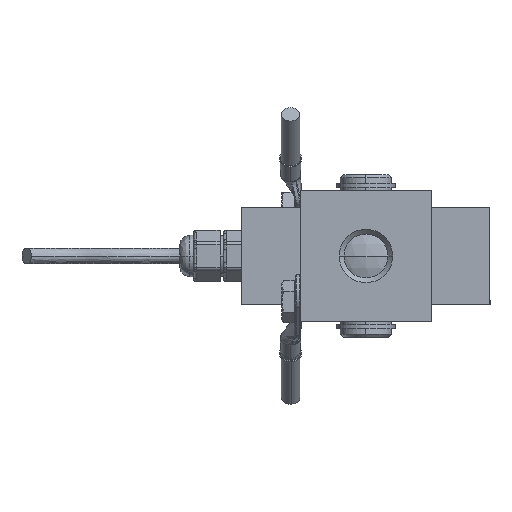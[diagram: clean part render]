
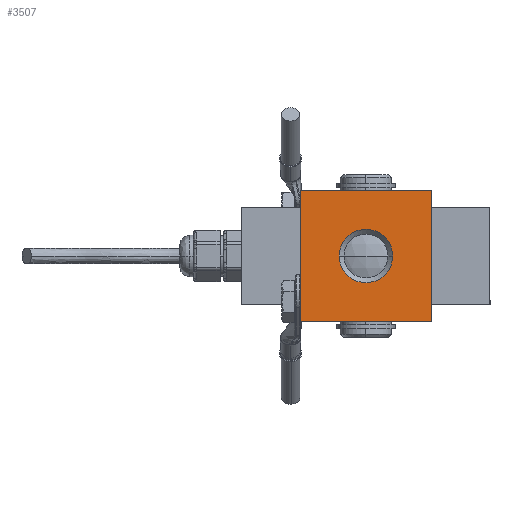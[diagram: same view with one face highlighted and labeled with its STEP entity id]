
A CAD part, front view. The second image highlights one B-rep face of the part: STEP entity #3507.
In plain terms, the highlighted planar face has unit normal (0, -1, 0).
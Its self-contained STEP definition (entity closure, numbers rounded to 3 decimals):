
#200 = CARTESIAN_POINT ( 'NONE',  ( 0., 0., 0. ) ) ;
#552 = FACE_BOUND ( 'NONE', #6560, .T. ) ;
#1264 = AXIS2_PLACEMENT_3D ( 'NONE', #4534, #17635, #6423 ) ;
#1455 = VERTEX_POINT ( 'NONE', #11928 ) ;
#1624 = EDGE_CURVE ( 'NONE', #4209, #1455, #12060, .T. ) ;
#1731 = FACE_OUTER_BOUND ( 'NONE', #13094, .T. ) ;
#2017 = ORIENTED_EDGE ( 'NONE', *, *, #5157, .F. ) ;
#2089 = DIRECTION ( 'NONE',  ( 1., 0., 0. ) ) ;
#3507 = ADVANCED_FACE ( 'NONE', ( #552, #1731 ), #8647, .T. ) ;
#3742 = VECTOR ( 'NONE', #23989, 1000. ) ;
#4209 = VERTEX_POINT ( 'NONE', #11277 ) ;
#4534 = CARTESIAN_POINT ( 'NONE',  ( 20., 0., -20. ) ) ;
#4665 = CARTESIAN_POINT ( 'NONE',  ( 40., 0., 0. ) ) ;
#4849 = VERTEX_POINT ( 'NONE', #12889 ) ;
#4935 = DIRECTION ( 'NONE',  ( 0., -1., 0. ) ) ;
#5157 = EDGE_CURVE ( 'NONE', #22710, #4849, #14290, .T. ) ;
#5234 = EDGE_CURVE ( 'NONE', #4849, #21268, #13715, .T. ) ;
#6423 = DIRECTION ( 'NONE',  ( 0., 0., -1. ) ) ;
#6499 = CARTESIAN_POINT ( 'NONE',  ( 0., 0., -40. ) ) ;
#6560 = EDGE_LOOP ( 'NONE', ( #19896, #10805 ) ) ;
#7153 = CARTESIAN_POINT ( 'NONE',  ( 0., 0., -40. ) ) ;
#8125 = VERTEX_POINT ( 'NONE', #12930 ) ;
#8647 = PLANE ( 'NONE',  #15684 ) ;
#9390 = CARTESIAN_POINT ( 'NONE',  ( 20., 0., -20. ) ) ;
#10736 = ORIENTED_EDGE ( 'NONE', *, *, #14654, .F. ) ;
#10805 = ORIENTED_EDGE ( 'NONE', *, *, #1624, .F. ) ;
#10831 = DIRECTION ( 'NONE',  ( 0., 0., -1. ) ) ;
#11260 = DIRECTION ( 'NONE',  ( 0., 0., -1. ) ) ;
#11277 = CARTESIAN_POINT ( 'NONE',  ( 20., 0., -11.808 ) ) ;
#11820 = LINE ( 'NONE', #16940, #21186 ) ;
#11928 = CARTESIAN_POINT ( 'NONE',  ( 20., 0., -28.192 ) ) ;
#12060 = CIRCLE ( 'NONE', #21784, 8.192 ) ;
#12889 = CARTESIAN_POINT ( 'NONE',  ( 40., 0., -40. ) ) ;
#12930 = CARTESIAN_POINT ( 'NONE',  ( 0., 0., 0. ) ) ;
#13094 = EDGE_LOOP ( 'NONE', ( #10736, #20846, #2017, #17248 ) ) ;
#13715 = LINE ( 'NONE', #7153, #3742 ) ;
#14035 = CIRCLE ( 'NONE', #1264, 8.192 ) ;
#14290 = LINE ( 'NONE', #23908, #19268 ) ;
#14654 = EDGE_CURVE ( 'NONE', #21268, #8125, #11820, .T. ) ;
#15684 = AXIS2_PLACEMENT_3D ( 'NONE', #23591, #4935, #18038 ) ;
#16940 = CARTESIAN_POINT ( 'NONE',  ( 0., 0., 0. ) ) ;
#17248 = ORIENTED_EDGE ( 'NONE', *, *, #19816, .F. ) ;
#17635 = DIRECTION ( 'NONE',  ( 0., -1., 0. ) ) ;
#18038 = DIRECTION ( 'NONE',  ( 0., 0., -1. ) ) ;
#18828 = DIRECTION ( 'NONE',  ( 0., 0., 1. ) ) ;
#19268 = VECTOR ( 'NONE', #10831, 1000. ) ;
#19816 = EDGE_CURVE ( 'NONE', #8125, #22710, #21969, .T. ) ;
#19896 = ORIENTED_EDGE ( 'NONE', *, *, #19996, .F. ) ;
#19996 = EDGE_CURVE ( 'NONE', #1455, #4209, #14035, .T. ) ;
#20846 = ORIENTED_EDGE ( 'NONE', *, *, #5234, .F. ) ;
#21186 = VECTOR ( 'NONE', #18828, 1000. ) ;
#21268 = VERTEX_POINT ( 'NONE', #6499 ) ;
#21784 = AXIS2_PLACEMENT_3D ( 'NONE', #9390, #22464, #11260 ) ;
#21969 = LINE ( 'NONE', #200, #22538 ) ;
#22464 = DIRECTION ( 'NONE',  ( 0., -1., 0. ) ) ;
#22538 = VECTOR ( 'NONE', #2089, 1000. ) ;
#22710 = VERTEX_POINT ( 'NONE', #4665 ) ;
#23591 = CARTESIAN_POINT ( 'NONE',  ( 0., 0., -40. ) ) ;
#23908 = CARTESIAN_POINT ( 'NONE',  ( 40., 0., 0. ) ) ;
#23989 = DIRECTION ( 'NONE',  ( -1., 0., 0. ) ) ;
